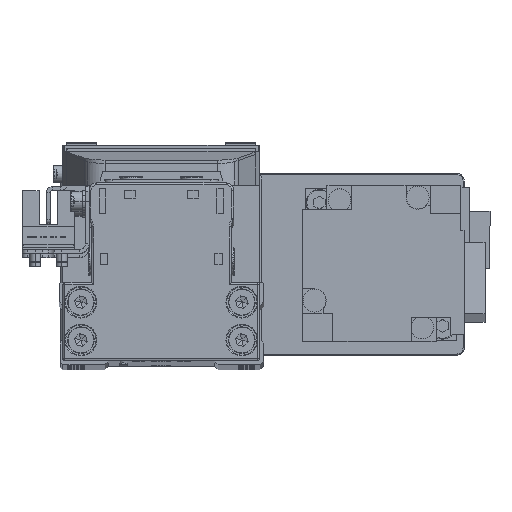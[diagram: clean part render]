
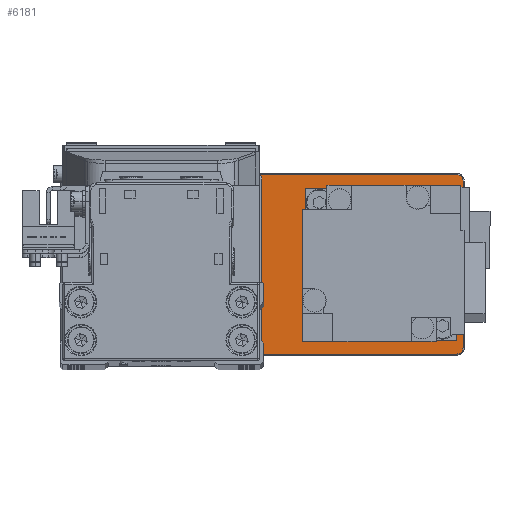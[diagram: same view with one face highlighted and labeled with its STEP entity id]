
A CAD part, top view. The second image highlights one B-rep face of the part: STEP entity #6181.
In plain terms, the highlighted planar face has unit normal (0, 0, 1).
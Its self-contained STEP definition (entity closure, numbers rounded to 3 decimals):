
#76 = CARTESIAN_POINT ( 'NONE',  ( 30., 0., 5. ) ) ;
#375 = CARTESIAN_POINT ( 'NONE',  ( -17.7, 0., 5. ) ) ;
#1179 = EDGE_CURVE ( 'NONE', #16572, #6921, #4290, .T. ) ;
#1934 = ORIENTED_EDGE ( 'NONE', *, *, #24481, .T. ) ;
#2626 = VECTOR ( 'NONE', #16449, 1000. ) ;
#2896 = CIRCLE ( 'NONE', #25793, 10.3 ) ;
#3066 = CARTESIAN_POINT ( 'NONE',  ( 0., 0., 5. ) ) ;
#3814 = ORIENTED_EDGE ( 'NONE', *, *, #39758, .T. ) ;
#3969 = CARTESIAN_POINT ( 'NONE',  ( -50., 23.7, 5. ) ) ;
#4009 = AXIS2_PLACEMENT_3D ( 'NONE', #38986, #10879, #23416 ) ;
#4290 = CIRCLE ( 'NONE', #32425, 1.7 ) ;
#4716 = EDGE_CURVE ( 'NONE', #28660, #13250, #32036, .T. ) ;
#4978 = ORIENTED_EDGE ( 'NONE', *, *, #9379, .T. ) ;
#5068 = ORIENTED_EDGE ( 'NONE', *, *, #8906, .T. ) ;
#6104 = CARTESIAN_POINT ( 'NONE',  ( 50., 23.7, 5. ) ) ;
#6134 = FACE_BOUND ( 'NONE', #31858, .T. ) ;
#6181 = ADVANCED_FACE ( 'NONE', ( #34235, #6134, #18612 ), #31134, .T. ) ;
#6381 = DIRECTION ( 'NONE',  ( 1., 0., 0. ) ) ;
#6921 = VERTEX_POINT ( 'NONE', #23697 ) ;
#7682 = DIRECTION ( 'NONE',  ( 1., 0., 0. ) ) ;
#7917 = CIRCLE ( 'NONE', #30840, 1.7 ) ;
#7968 = CARTESIAN_POINT ( 'NONE',  ( 50., -22., 5. ) ) ;
#8221 = VERTEX_POINT ( 'NONE', #14253 ) ;
#8303 = CARTESIAN_POINT ( 'NONE',  ( 42.8, 0., 5. ) ) ;
#8555 = CARTESIAN_POINT ( 'NONE',  ( 30., 0., 5. ) ) ;
#8906 = EDGE_CURVE ( 'NONE', #6921, #27680, #40415, .T. ) ;
#8927 = EDGE_CURVE ( 'NONE', #34866, #16572, #9655, .T. ) ;
#8943 = DIRECTION ( 'NONE',  ( 0., 1., 0. ) ) ;
#9339 = CIRCLE ( 'NONE', #32257, 12.8 ) ;
#9379 = EDGE_CURVE ( 'NONE', #28966, #39230, #39150, .T. ) ;
#9386 = ORIENTED_EDGE ( 'NONE', *, *, #23794, .T. ) ;
#9426 = EDGE_CURVE ( 'NONE', #21667, #26601, #24535, .T. ) ;
#9655 = LINE ( 'NONE', #22174, #19466 ) ;
#9755 = DIRECTION ( 'NONE',  ( 1., 0., 0. ) ) ;
#10563 = AXIS2_PLACEMENT_3D ( 'NONE', #7968, #20468, #33555 ) ;
#10879 = DIRECTION ( 'NONE',  ( 0., 0., 1. ) ) ;
#12326 = CARTESIAN_POINT ( 'NONE',  ( 50., -23.7, 5. ) ) ;
#12521 = VERTEX_POINT ( 'NONE', #375 ) ;
#12532 = DIRECTION ( 'NONE',  ( 0., 0., -1. ) ) ;
#12651 = CARTESIAN_POINT ( 'NONE',  ( -50., -22., 5. ) ) ;
#12993 = CIRCLE ( 'NONE', #35937, 10.3 ) ;
#13250 = VERTEX_POINT ( 'NONE', #14885 ) ;
#13484 = EDGE_LOOP ( 'NONE', ( #5068, #1934, #14913, #9386, #37224, #38567, #17536, #34833 ) ) ;
#14247 = CARTESIAN_POINT ( 'NONE',  ( 50., -23.7, 5. ) ) ;
#14253 = CARTESIAN_POINT ( 'NONE',  ( -38.3, 0., 5. ) ) ;
#14363 = VECTOR ( 'NONE', #8943, 1000. ) ;
#14885 = CARTESIAN_POINT ( 'NONE',  ( -50., 23.7, 5. ) ) ;
#14913 = ORIENTED_EDGE ( 'NONE', *, *, #9426, .T. ) ;
#15547 = DIRECTION ( 'NONE',  ( 0., 0., 1. ) ) ;
#16194 = VECTOR ( 'NONE', #24854, 1000. ) ;
#16449 = DIRECTION ( 'NONE',  ( -1., 0., 0. ) ) ;
#16572 = VERTEX_POINT ( 'NONE', #23430 ) ;
#17536 = ORIENTED_EDGE ( 'NONE', *, *, #8927, .T. ) ;
#18612 = FACE_OUTER_BOUND ( 'NONE', #13484, .T. ) ;
#19466 = VECTOR ( 'NONE', #34691, 1000. ) ;
#20468 = DIRECTION ( 'NONE',  ( 0., 0., 1. ) ) ;
#21074 = DIRECTION ( 'NONE',  ( 0., 0., -1. ) ) ;
#21667 = VERTEX_POINT ( 'NONE', #33147 ) ;
#21691 = CIRCLE ( 'NONE', #4009, 1.7 ) ;
#21966 = CARTESIAN_POINT ( 'NONE',  ( 50., 22., 5. ) ) ;
#22174 = CARTESIAN_POINT ( 'NONE',  ( -51.7, -22., 5. ) ) ;
#22425 = EDGE_CURVE ( 'NONE', #13250, #34866, #21691, .T. ) ;
#23263 = CARTESIAN_POINT ( 'NONE',  ( -28., 0., 5. ) ) ;
#23416 = DIRECTION ( 'NONE',  ( 1., 0., 0. ) ) ;
#23430 = CARTESIAN_POINT ( 'NONE',  ( -51.7, -22., 5. ) ) ;
#23697 = CARTESIAN_POINT ( 'NONE',  ( -50., -23.7, 5. ) ) ;
#23794 = EDGE_CURVE ( 'NONE', #26601, #28660, #7917, .T. ) ;
#24481 = EDGE_CURVE ( 'NONE', #27680, #21667, #28280, .T. ) ;
#24535 = LINE ( 'NONE', #37046, #14363 ) ;
#24854 = DIRECTION ( 'NONE',  ( 1., 0., 0. ) ) ;
#25058 = DIRECTION ( 'NONE',  ( 1., 0., 0. ) ) ;
#25178 = DIRECTION ( 'NONE',  ( 0., 0., 1. ) ) ;
#25356 = CARTESIAN_POINT ( 'NONE',  ( -28., 0., 5. ) ) ;
#25793 = AXIS2_PLACEMENT_3D ( 'NONE', #23263, #35775, #7682 ) ;
#26601 = VERTEX_POINT ( 'NONE', #38150 ) ;
#27680 = VERTEX_POINT ( 'NONE', #14247 ) ;
#28078 = DIRECTION ( 'NONE',  ( 1., 0., 0. ) ) ;
#28280 = CIRCLE ( 'NONE', #10563, 1.7 ) ;
#28499 = ORIENTED_EDGE ( 'NONE', *, *, #32572, .T. ) ;
#28660 = VERTEX_POINT ( 'NONE', #6104 ) ;
#28966 = VERTEX_POINT ( 'NONE', #8303 ) ;
#29753 = EDGE_LOOP ( 'NONE', ( #4978, #28499 ) ) ;
#30840 = AXIS2_PLACEMENT_3D ( 'NONE', #21966, #34477, #6381 ) ;
#31134 = PLANE ( 'NONE',  #37429 ) ;
#31858 = EDGE_LOOP ( 'NONE', ( #3814, #34323 ) ) ;
#32036 = LINE ( 'NONE', #3969, #2626 ) ;
#32257 = AXIS2_PLACEMENT_3D ( 'NONE', #76, #12532, #25058 ) ;
#32425 = AXIS2_PLACEMENT_3D ( 'NONE', #12651, #25178, #37679 ) ;
#32572 = EDGE_CURVE ( 'NONE', #39230, #28966, #9339, .T. ) ;
#33030 = EDGE_CURVE ( 'NONE', #8221, #12521, #2896, .T. ) ;
#33147 = CARTESIAN_POINT ( 'NONE',  ( 51.7, -22., 5. ) ) ;
#33266 = CARTESIAN_POINT ( 'NONE',  ( 17.2, 0., 5. ) ) ;
#33555 = DIRECTION ( 'NONE',  ( 1., 0., 0. ) ) ;
#33589 = DIRECTION ( 'NONE',  ( 1., 0., 0. ) ) ;
#34235 = FACE_BOUND ( 'NONE', #29753, .T. ) ;
#34323 = ORIENTED_EDGE ( 'NONE', *, *, #33030, .T. ) ;
#34477 = DIRECTION ( 'NONE',  ( 0., 0., 1. ) ) ;
#34691 = DIRECTION ( 'NONE',  ( 0., -1., 0. ) ) ;
#34833 = ORIENTED_EDGE ( 'NONE', *, *, #1179, .T. ) ;
#34866 = VERTEX_POINT ( 'NONE', #36951 ) ;
#35775 = DIRECTION ( 'NONE',  ( 0., 0., -1. ) ) ;
#35937 = AXIS2_PLACEMENT_3D ( 'NONE', #25356, #37867, #9755 ) ;
#36951 = CARTESIAN_POINT ( 'NONE',  ( -51.7, 22., 5. ) ) ;
#37046 = CARTESIAN_POINT ( 'NONE',  ( 51.7, 22., 5. ) ) ;
#37224 = ORIENTED_EDGE ( 'NONE', *, *, #4716, .T. ) ;
#37429 = AXIS2_PLACEMENT_3D ( 'NONE', #3066, #15547, #28078 ) ;
#37679 = DIRECTION ( 'NONE',  ( 1., 0., 0. ) ) ;
#37867 = DIRECTION ( 'NONE',  ( 0., 0., -1. ) ) ;
#38150 = CARTESIAN_POINT ( 'NONE',  ( 51.7, 22., 5. ) ) ;
#38567 = ORIENTED_EDGE ( 'NONE', *, *, #22425, .T. ) ;
#38986 = CARTESIAN_POINT ( 'NONE',  ( -50., 22., 5. ) ) ;
#39150 = CIRCLE ( 'NONE', #39242, 12.8 ) ;
#39230 = VERTEX_POINT ( 'NONE', #33266 ) ;
#39242 = AXIS2_PLACEMENT_3D ( 'NONE', #8555, #21074, #33589 ) ;
#39758 = EDGE_CURVE ( 'NONE', #12521, #8221, #12993, .T. ) ;
#40415 = LINE ( 'NONE', #12326, #16194 ) ;
